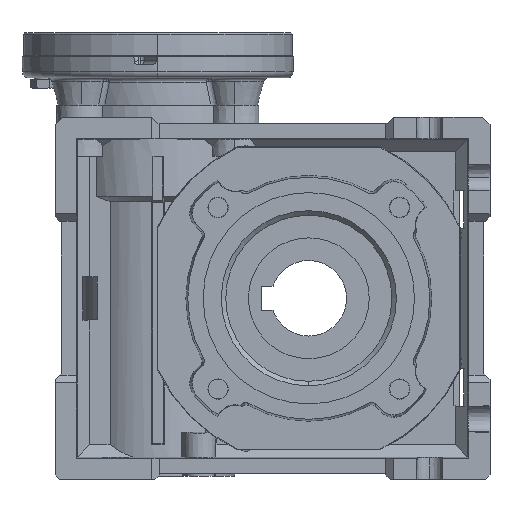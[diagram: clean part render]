
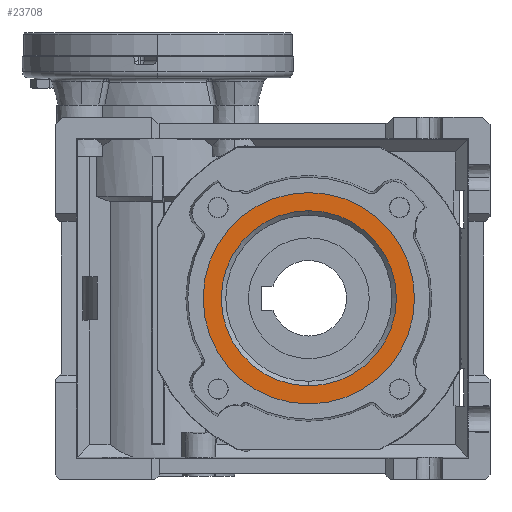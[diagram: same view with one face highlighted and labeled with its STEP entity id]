
A CAD part, left-side view. The second image highlights one B-rep face of the part: STEP entity #23708.
In plain terms, the highlighted planar face has unit normal (-1, 0, 0).
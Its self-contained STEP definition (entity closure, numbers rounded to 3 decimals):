
#630 = DIRECTION ( 'NONE',  ( -1., 0., 0. ) ) ;
#748 = EDGE_CURVE ( 'NONE', #13214, #1324, #35474, .T. ) ;
#1324 = VERTEX_POINT ( 'NONE', #12816 ) ;
#1329 = CARTESIAN_POINT ( 'NONE',  ( -46., -50., -93. ) ) ;
#2013 = DIRECTION ( 'NONE',  ( 0., 0., 1. ) ) ;
#4344 = ORIENTED_EDGE ( 'NONE', *, *, #32382, .T. ) ;
#4984 = CARTESIAN_POINT ( 'NONE',  ( -46., -50., -64. ) ) ;
#5541 = DIRECTION ( 'NONE',  ( -1., 0., 0. ) ) ;
#6855 = CARTESIAN_POINT ( 'NONE',  ( -46., -50., -64. ) ) ;
#8245 = DIRECTION ( 'NONE',  ( 0., 0., 1. ) ) ;
#9485 = CIRCLE ( 'NONE', #28911, 35. ) ;
#11162 = DIRECTION ( 'NONE',  ( 1., 0., 0. ) ) ;
#11818 = ORIENTED_EDGE ( 'NONE', *, *, #24648, .T. ) ;
#12816 = CARTESIAN_POINT ( 'NONE',  ( -46., -50., -99. ) ) ;
#12982 = EDGE_LOOP ( 'NONE', ( #4344, #11818 ) ) ;
#13214 = VERTEX_POINT ( 'NONE', #26330 ) ;
#14120 = EDGE_CURVE ( 'NONE', #1324, #13214, #9485, .T. ) ;
#14321 = EDGE_LOOP ( 'NONE', ( #20127, #38501 ) ) ;
#16558 = CARTESIAN_POINT ( 'NONE',  ( -46., -50., -64. ) ) ;
#16689 = CIRCLE ( 'NONE', #36474, 29. ) ;
#17312 = CARTESIAN_POINT ( 'NONE',  ( -46., -50., -64. ) ) ;
#19722 = FACE_BOUND ( 'NONE', #12982, .T. ) ;
#20127 = ORIENTED_EDGE ( 'NONE', *, *, #14120, .T. ) ;
#20530 = DIRECTION ( 'NONE',  ( 0., 0., 1. ) ) ;
#22767 = CARTESIAN_POINT ( 'NONE',  ( -46., -50., -35. ) ) ;
#23348 = DIRECTION ( 'NONE',  ( 0., 0., 1. ) ) ;
#23708 = ADVANCED_FACE ( 'NONE', ( #19722, #28331 ), #32902, .T. ) ;
#24648 = EDGE_CURVE ( 'NONE', #27857, #32630, #36308, .T. ) ;
#26330 = CARTESIAN_POINT ( 'NONE',  ( -46., -50., -29. ) ) ;
#27667 = DIRECTION ( 'NONE',  ( -1., 0., 0. ) ) ;
#27857 = VERTEX_POINT ( 'NONE', #1329 ) ;
#28331 = FACE_OUTER_BOUND ( 'NONE', #14321, .T. ) ;
#28911 = AXIS2_PLACEMENT_3D ( 'NONE', #4984, #27667, #8245 ) ;
#30529 = CARTESIAN_POINT ( 'NONE',  ( -46., -50., -64. ) ) ;
#31561 = AXIS2_PLACEMENT_3D ( 'NONE', #16558, #5541, #2013 ) ;
#32382 = EDGE_CURVE ( 'NONE', #32630, #27857, #16689, .T. ) ;
#32630 = VERTEX_POINT ( 'NONE', #22767 ) ;
#32902 = PLANE ( 'NONE',  #36464 ) ;
#33767 = DIRECTION ( 'NONE',  ( 0., 0., 1. ) ) ;
#34061 = AXIS2_PLACEMENT_3D ( 'NONE', #17312, #39865, #20530 ) ;
#35474 = CIRCLE ( 'NONE', #31561, 35. ) ;
#36308 = CIRCLE ( 'NONE', #34061, 29. ) ;
#36464 = AXIS2_PLACEMENT_3D ( 'NONE', #6855, #630, #23348 ) ;
#36474 = AXIS2_PLACEMENT_3D ( 'NONE', #30529, #11162, #33767 ) ;
#38501 = ORIENTED_EDGE ( 'NONE', *, *, #748, .T. ) ;
#39865 = DIRECTION ( 'NONE',  ( 1., 0., 0. ) ) ;
